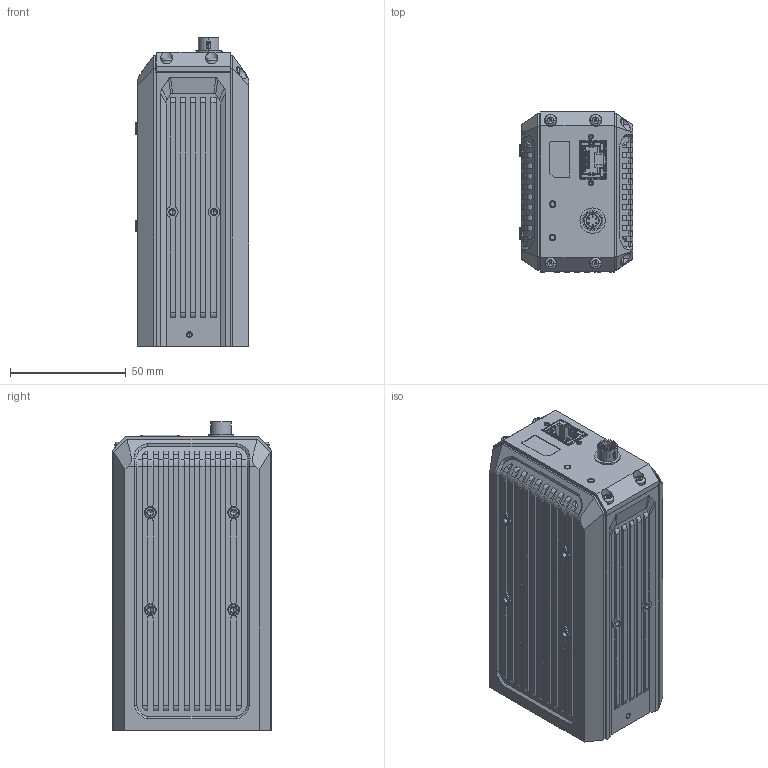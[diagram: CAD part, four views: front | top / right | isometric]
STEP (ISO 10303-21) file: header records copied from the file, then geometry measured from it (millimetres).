
FILE_DESCRIPTION((''),'2;1');
FILE_NAME('SC6500P3D00','2025-04-16T11:19:54',('huguozhe'),(''),'CREO PARAMETRIC BY PTC INC, 2020044','CREO PARAMETRIC BY PTC INC, 2020044','');
FILE_SCHEMA(('AUTOMOTIVE_DESIGN { 1 0 10303 214 1 1 1 1 }'));
Products named in the file (1): SC6500P3D00
Bounding box: 49 x 69 x 133.3 mm (x, y, z)
Volume: 322020.4 mm3; surface area: 95383.7 mm2
Topology: 2 solids, 138 shells, 4405 faces, 11882 edges, 7579 vertices
Faces by surface type: plane 2601, cylinder 1332, cone 203, bspline 145, torus 102, sphere 18, revolution 4
Entity records: 171719 total; most frequent: CARTESIAN_POINT 50480, ORIENTED_EDGE 23272, DIRECTION 21811, EDGE_CURVE 11810, VERTEX_POINT 7579, AXIS2_PLACEMENT_3D 7306, VECTOR 7195, LINE 7195
